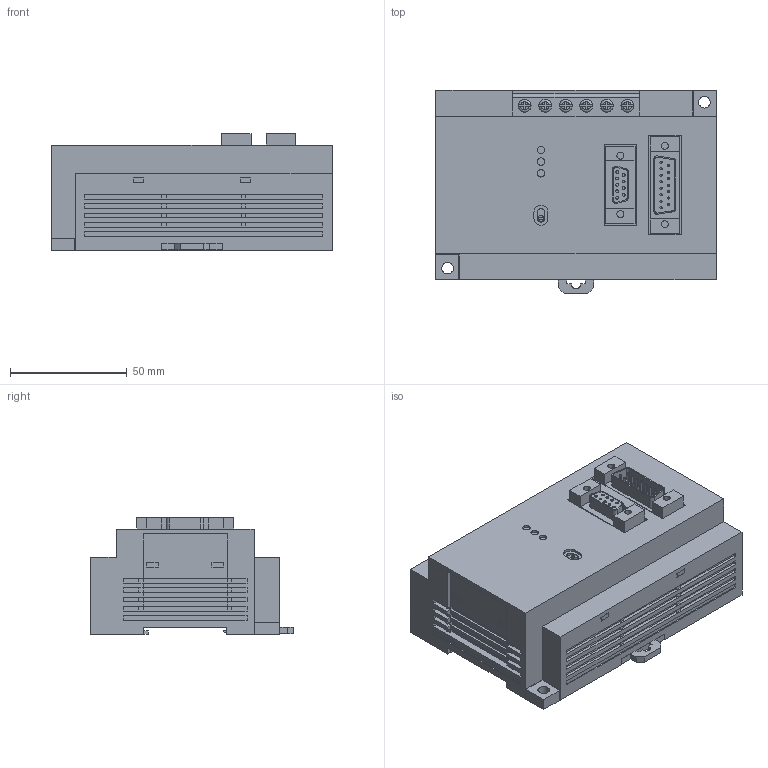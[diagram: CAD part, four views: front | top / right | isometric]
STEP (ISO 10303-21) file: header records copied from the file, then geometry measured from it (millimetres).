
FILE_DESCRIPTION (( 'STEP AP214' ), '1' );
FILE_NAME ('afp8532.stp', '2008-08-28T05:55:28', ( '' ), ( 'PanasonicElectricWorks' ), '', '', '' );
FILE_SCHEMA (( 'AUTOMOTIVE_DESIGN' ));
Length unit declared in the file: millimetre
Products named in the file (1): afp8532
Bounding box: 120 x 86.9 x 50 mm (x, y, z)
Volume: 376250.8 mm3; surface area: 47697.4 mm2
Topology: 1 solids, 1 shells, 831 faces, 2206 edges, 1444 vertices
Faces by surface type: plane 651, cylinder 138, sphere 30, torus 12
Entity records: 34774 total; most frequent: CARTESIAN_POINT 4614, ORIENTED_EDGE 4412, DIRECTION 4216, EDGE_CURVE 2206, VECTOR 1812, LINE 1812, VERTEX_POINT 1444, AXIS2_PLACEMENT_3D 1202
